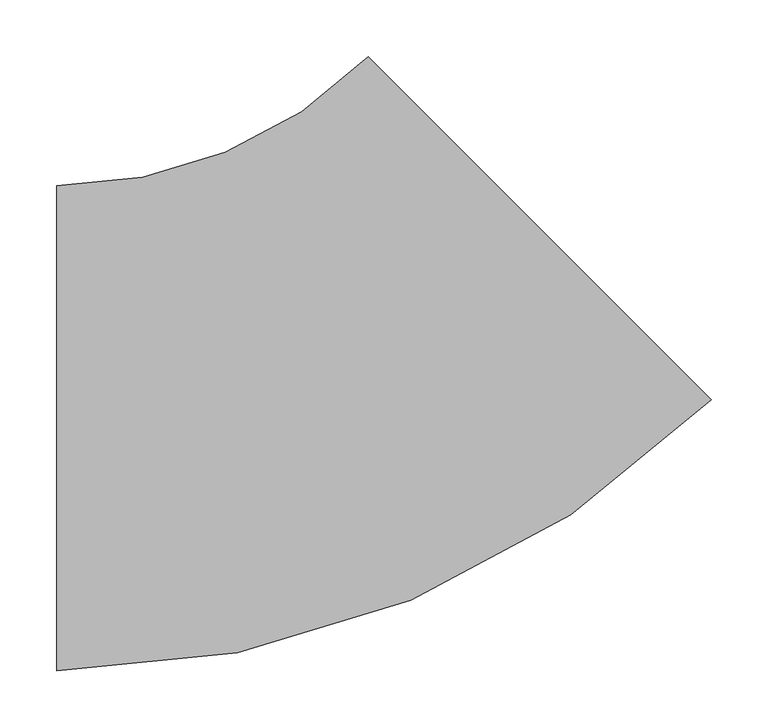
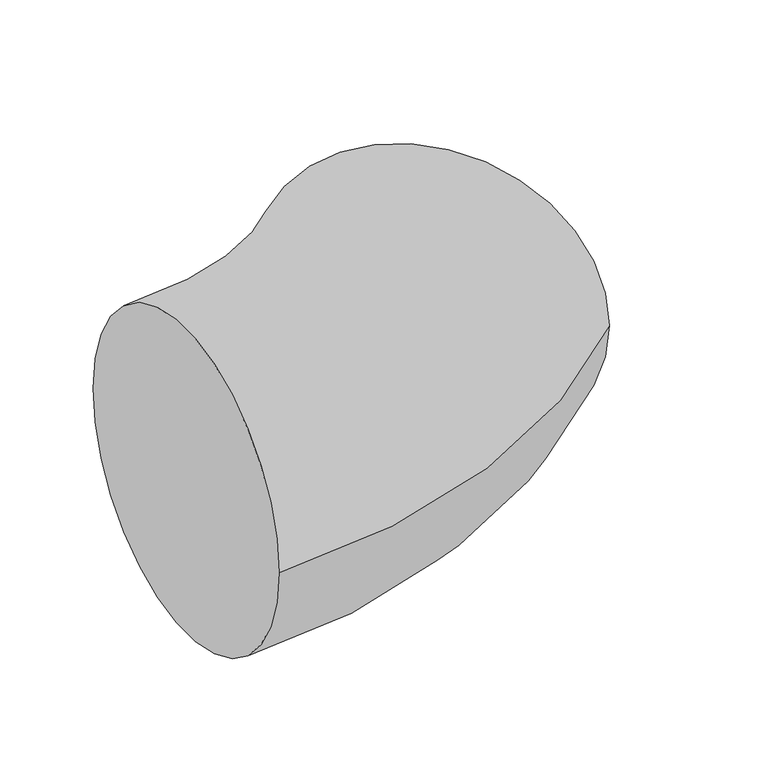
"""IFC4 building model written with IfcOpenShell, lengths in millimetres: pipe fitting geometry, ADSK_ДетальСтальнаяСварная_Отвод_ГОСТ17375-2001 : Исполнение 2."""

from ifc_helpers import new_model, si_unit, point, frame, origin, place, context, project, spatial, circle_curve, ellipse_curve, trimmed, source, transform, mapped, element, save
from ifc_brep_helpers import plane_surface, revolved_surface, advanced_brep


def pipe_fitting_24f3108f(model_context):
    return source(origin(), model_context, "Body", "AdvancedBrep", [
        advanced_brep(
        [(-248.5281374, -213.0, 0.0), (-248.5281374, 213.0, 0.0), (326.3496757, 25.1221869, 0.0), (25.1221869, 326.3496757, 0.0)],
        [
            (0, 1, circle_curve(frame((-248.5281374, 0.0, 0.0), z_axis=(-1.0, 0.0, 0.0), x_axis=(0.0, 1.0, 0.0)), 213.0)),
            (1, 0, circle_curve(frame((-248.5281374, 0.0, 0.0), z_axis=(-1.0, 0.0, 0.0), x_axis=(0.0, 1.0, 0.0)), 213.0)),
            (2, 3, circle_curve(frame((175.7359313, 175.7359313, 0.0), z_axis=(0.7071067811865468, 0.7071067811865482, 0.0), x_axis=(-0.7071067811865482, 0.7071067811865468, 0.0)), 213.0)),
            (3, 2, circle_curve(frame((175.7359313, 175.7359313, 0.0), z_axis=(0.7071067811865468, 0.7071067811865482, 0.0), x_axis=(-0.7071067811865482, 0.7071067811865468, 0.0)), 213.0)),
            (3, 1, circle_curve(frame((-248.5281374, 600.0, 0.0), z_axis=(0.0, 0.0, -1.0), x_axis=(0.0, -1.0, 0.0)), 387.0)),
            (0, 2, circle_curve(frame((-248.5281374, 600.0, 0.0), z_axis=(0.0, 0.0, 1.0), x_axis=(0.0, -1.0, 0.0)), 813.0)),
        ],
        [
            plane_surface(frame((-248.5281374, 0.0, 0.0), z_axis=(-1.0, 0.0, 0.0), x_axis=(0.0, 0.0, 1.0))),
            plane_surface(frame((175.7359313, 175.7359313, 0.0), z_axis=(0.7071067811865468, 0.7071067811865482, 0.0), x_axis=(0.0, 0.0, 1.0))),
            revolved_surface(trimmed(ellipse_curve(frame((-248.5281374, 0.0, 0.0), z_axis=(-1.0, 0.0, 0.0), x_axis=(0.0, 1.0, 0.0)), 213.0, 213.0), [point((-248.5281374, -213.0, 0.0))], [point((-248.5281374, 213.0, 0.0))], True, "CARTESIAN"), (-248.5281374, 600.0, 0.0), (0.0, 0.0, 1.0)),
            revolved_surface(trimmed(ellipse_curve(frame((-248.5281374, 0.0, 0.0), z_axis=(-1.0, 0.0, 0.0), x_axis=(0.0, 1.0, 0.0)), 213.0, 213.0), [point((-248.5281374, 213.0, 0.0))], [point((-248.5281374, -213.0, 0.0))], True, "CARTESIAN"), (-248.5281374, 600.0, 0.0), (0.0, 0.0, 1.0)),
        ],
        [
            (0, [[1, 2]]),
            (1, [[3, 4]]),
            (2, [[5, -1, 6, -4]]),
            (3, [[-6, -2, -5, -3]]),
        ],
    ),
    ])


if __name__ == "__main__":
    model = new_model("IFC4")
    model_context = context("Model", 3, world=origin())
    ifc_project = project(units=[si_unit("LENGTHUNIT", "METRE", prefix="MILLI")], contexts=[model_context])
    site = spatial("IfcSite", under=ifc_project)
    building = spatial("IfcBuilding", under=site)
    placement = place(None, origin())
    pipe_fitting_shape = pipe_fitting_24f3108f(model_context)
    element("IfcPipeFitting", 1, ObjectType="ADSK_ДетальСтальнаяСварная_Отвод_ГОСТ17375-2001 : Исполнение 2", at=placement, inside=building, context=model_context, shape_type="MappedRepresentation", body=[
        mapped(pipe_fitting_shape, transform((0.0, 0.0, 0.0), x_axis=(1.0, 0.0, 0.0), y_axis=(0.0, 1.0, 0.0), z_axis=(0.0, 0.0, 1.0))),
    ])
    save(model, "model.ifc")
